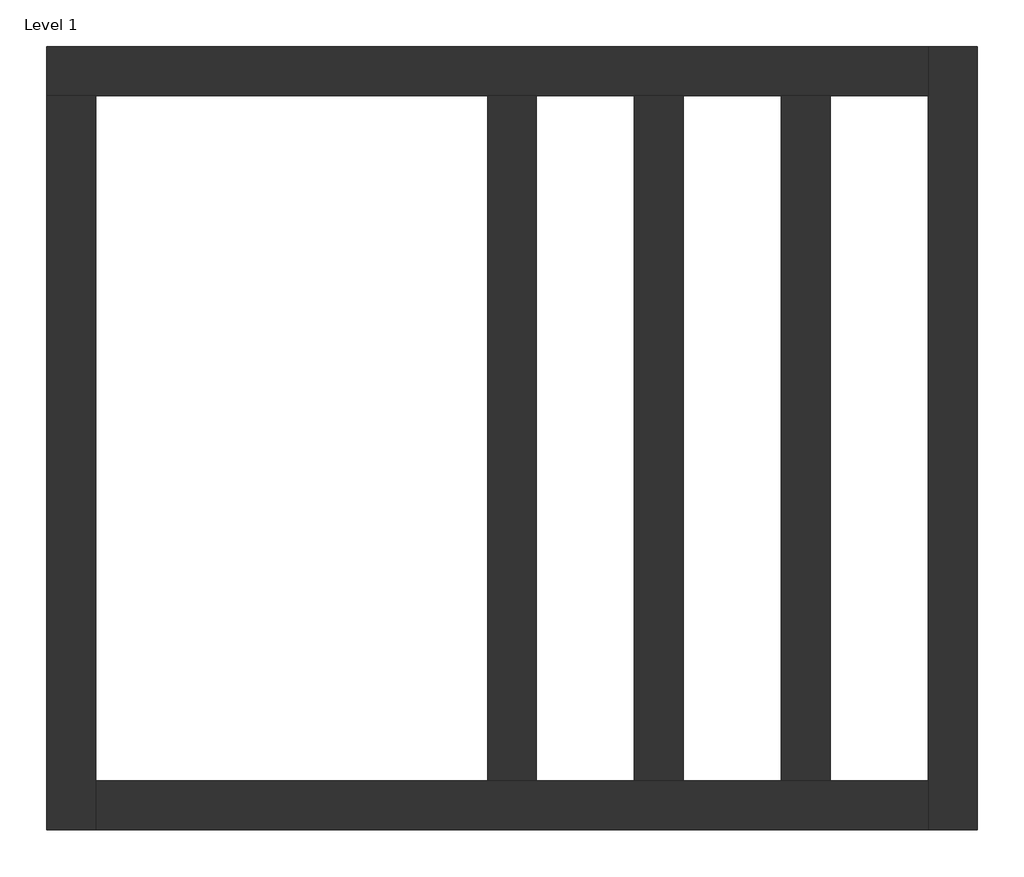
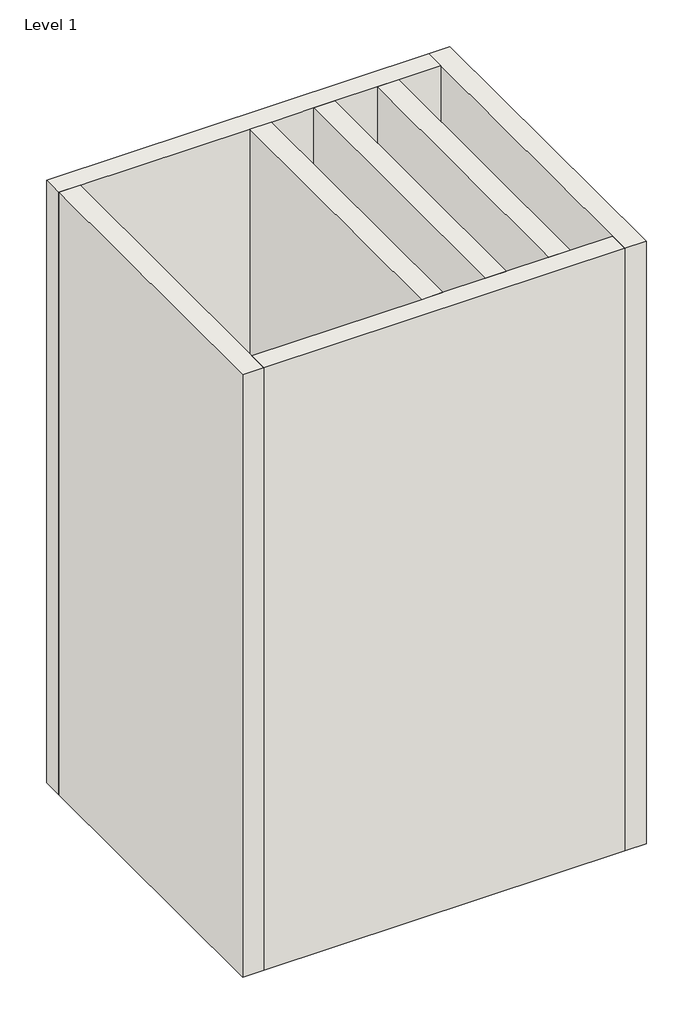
# One storey: 7 walls.
"""IFC4 building model written with IfcOpenShell, lengths in millimetres."""

import ifcopenshell
import ifcopenshell.guid

model = None  # the IFC model being written
_history = None  # IfcOwnerHistory: only IFC2X3 demands one
_inside = {}  # id of a spatial element -> (the spatial element, [elements in it])
_under = {}  # id of a project, library or spatial element -> (it, [spatial elements below it])
_declared = {}  # id of a project -> (the project, [libraries it declares])
_typed = {}  # id of a type object -> (the type object, [elements of that type])
_made_of = {}  # id of a material, layer set ... -> (it, [elements and type objects made of it])


def new_model(schema):
    """Start an empty IFC model of exactly this schema.

    Asked for "IFC4X3", IfcOpenShell would pick the latest addendum, in which some entities
    have other attributes; the version numbers below select the first issue.
    IFC2X3 requires an IfcOwnerHistory on every rooted entity: one is made here for all.
    """
    global model, _history
    if schema == "IFC4X3":
        model = ifcopenshell.file(schema_version=(4, 3, 0, 0))
    else:
        model = ifcopenshell.file(schema=schema)
    _inside.clear()
    _under.clear()
    _declared.clear()
    _typed.clear()
    _made_of.clear()
    _history = None
    if model.schema == "IFC2X3":
        org = make("IfcOrganization", Name="unknown")
        user = make(
            "IfcPersonAndOrganization",
            ThePerson=make("IfcPerson", FamilyName="unknown"),
            TheOrganization=org,
        )
        app = make(
            "IfcApplication",
            ApplicationDeveloper=org,
            Version="unknown",
            ApplicationFullName="unknown",
            ApplicationIdentifier="unknown",
        )
        _history = make(
            "IfcOwnerHistory",
            OwningUser=user,
            OwningApplication=app,
            ChangeAction="ADDED",
            CreationDate=0,
        )
    return model


def make(cls, **values):
    """One entity of the class cls with the attributes given. An attribute that is None is left unset."""
    return model.create_entity(
        cls, **{name: value for name, value in values.items() if value is not None}
    )


def rooted(cls, **values):
    """An entity with a GlobalId (a new one), such as an element, a storey or a relation."""
    return make(cls, GlobalId=ifcopenshell.guid.new(), OwnerHistory=_history, **values)


def si_unit(unit_type, name, prefix=None):
    """IfcSIUnit, for example si_unit("LENGTHUNIT", "METRE", prefix="MILLI")."""
    return make("IfcSIUnit", UnitType=unit_type, Prefix=prefix, Name=name)


def assignment(units):
    """IfcUnitAssignment: the units of a project."""
    return None if units is None else make("IfcUnitAssignment", Units=units)


def point(xyz):
    """IfcCartesianPoint."""
    return None if xyz is None else make("IfcCartesianPoint", Coordinates=xyz)


def direction(xyz):
    """IfcDirection."""
    return None if xyz is None else make("IfcDirection", DirectionRatios=xyz)


def frame(location, z_axis=None, x_axis=None):
    """IfcAxis2Placement3D, a coordinate frame: its origin and axes. An axis left out is left unset."""
    return make(
        "IfcAxis2Placement3D",
        Location=point(location),
        Axis=direction(z_axis),
        RefDirection=direction(x_axis),
    )


def origin():
    """The frame at (0, 0, 0) with its axes left unset."""
    return frame((0.0, 0.0, 0.0))


def origin_with_axes():
    """The frame at (0, 0, 0) with the z axis (0, 0, 1) and the x axis (1, 0, 0) written out."""
    return frame((0.0, 0.0, 0.0), z_axis=(0.0, 0.0, 1.0), x_axis=(1.0, 0.0, 0.0))


def place(relative_to, where):
    """IfcLocalPlacement: puts the frame where relative to a parent placement (None: the world)."""
    return make(
        "IfcLocalPlacement", PlacementRelTo=relative_to, RelativePlacement=where
    )


def context(
    kind, dimensions, precision=None, world=None, true_north=None, identifier=None
):
    """IfcGeometricRepresentationContext, for example the 3D "Model" context."""
    return make(
        "IfcGeometricRepresentationContext",
        ContextIdentifier=identifier,
        ContextType=kind,
        CoordinateSpaceDimension=dimensions,
        Precision=precision,
        WorldCoordinateSystem=world,
        TrueNorth=true_north,
    )


def project(units=None, contexts=None):
    """IfcProject with its units and contexts."""
    return rooted(
        "IfcProject",
        Name="project",
        RepresentationContexts=contexts,
        UnitsInContext=assignment(units),
    )


def spatial(cls, under=None, at=None, **own):
    """A site, building, storey or space (cls), placed at a placement, below another one or the project."""
    s = rooted(cls, ObjectPlacement=at, **own)
    if under is not None:
        _under.setdefault(under.id(), (under, []))[1].append(s)
    return s


def polyline(points):
    """IfcPolyline through the points."""
    return make("IfcPolyline", Points=[point(p) for p in points])


def outline(outer, holes=None, kind="AREA"):
    """IfcArbitraryClosedProfileDef: a profile drawn as a closed curve; with holes, ...WithVoids."""
    if holes is None:
        return make("IfcArbitraryClosedProfileDef", ProfileType=kind, OuterCurve=outer)
    return make(
        "IfcArbitraryProfileDefWithVoids",
        ProfileType=kind,
        OuterCurve=outer,
        InnerCurves=holes,
    )


def extrude(swept, where, along, depth):
    """IfcExtrudedAreaSolid: the profile swept, set in the frame where, extruded along a direction by depth."""
    return make(
        "IfcExtrudedAreaSolid",
        SweptArea=swept,
        Position=where,
        ExtrudedDirection=direction(along),
        Depth=depth,
    )


def faces_of(points, faces, orient=None, outer=None):
    """IfcFace entities. A face is a list of loops; a loop is a list of indices into points, from 0.

    orient and outer hold one flag for each loop. By default every Orientation is true, the
    first loop of a face is its IfcFaceOuterBound and the others are IfcFaceBound.
    """
    made = []
    for i, loops in enumerate(faces):
        bounds = []
        for j, loop in enumerate(loops):
            is_outer = j == 0 if outer is None else outer[i][j]
            bounds.append(
                make(
                    "IfcFaceOuterBound" if is_outer else "IfcFaceBound",
                    Bound=make("IfcPolyLoop", Polygon=[points[k] for k in loop]),
                    Orientation=True if orient is None else orient[i][j],
                )
            )
        made.append(make("IfcFace", Bounds=bounds))
    return made


def faceted_brep(points, faces, orient=None, outer=None, voids=None):
    """IfcFacetedBrep: a solid bounded by flat faces; with voids (closed shells), ...WithVoids."""
    shared = [point(p) for p in points]
    hull = make("IfcClosedShell", CfsFaces=faces_of(shared, faces, orient, outer))
    if voids is None:
        return make("IfcFacetedBrep", Outer=hull)
    return make(
        "IfcFacetedBrepWithVoids",
        Outer=hull,
        Voids=[
            make(cls, CfsFaces=faces_of(shared, fs, o, b)) for cls, fs, o, b in voids
        ],
    )


def shape(context_of_items, identifier, shape_type, items):
    """IfcShapeRepresentation: the items that make up one representation, for example the "Body"."""
    return make(
        "IfcShapeRepresentation",
        ContextOfItems=context_of_items,
        RepresentationIdentifier=identifier,
        RepresentationType=shape_type,
        Items=items,
    )


def made_of(thing, what):
    """Note that an element or type object is made of a material, layer set ...; save() writes the relation."""
    if what is not None:
        _made_of.setdefault(what.id(), (what, []))[1].append(thing)
    return thing


def element(
    cls,
    number,
    at=None,
    inside=None,
    cuts=None,
    type_object=None,
    material=None,
    context=None,
    identifier="Body",
    shape_type=None,
    held_by="IfcProductDefinitionShape",
    body=None,
    shapes=None,
    **own,
):
    """One element of the class cls, such as IfcWall. Its Tag is "e" and its number.

    at: its placement. inside: the storey or other place that contains it. cuts: it is an
    opening in that element (IfcRelVoidsElement). A single representation is given by context,
    identifier, shape_type and body (its items); several are given by shapes. held_by: the class
    of the entity that holds the representations. save() writes the other relations.
    """
    e = rooted(cls, Tag="e%d" % number, ObjectPlacement=at, **own)
    if body is not None:
        shapes = [shape(context, identifier, shape_type, body)]
    if shapes is not None:
        e.Representation = make(held_by, Representations=shapes)
    if inside is not None:
        _inside.setdefault(inside.id(), (inside, []))[1].append(e)
    if cuts is not None:
        rooted(
            "IfcRelVoidsElement", RelatingBuildingElement=cuts, RelatedOpeningElement=e
        )
    if type_object is not None:
        _typed.setdefault(type_object.id(), (type_object, []))[1].append(e)
    return made_of(e, material)


def aggregate(whole, parts):
    """IfcRelAggregates: a whole, such as a stair, and the parts it consists of."""
    return rooted("IfcRelAggregates", RelatingObject=whole, RelatedObjects=parts)


def save(model, path):
    """Write the relations noted so far, then the file.

    IfcRelAggregates (storeys below a building ...), IfcRelContainedInSpatialStructure (elements
    in a storey), IfcRelDefinesByType, IfcRelAssociatesMaterial and IfcRelDeclares: one each for
    every whole, place, type object, material and project.
    """
    for whole, parts in _under.values():
        aggregate(whole, parts)
    for where, things in _inside.values():
        rooted(
            "IfcRelContainedInSpatialStructure",
            RelatedElements=things,
            RelatingStructure=where,
        )
    for kind, things in _typed.values():
        rooted("IfcRelDefinesByType", RelatedObjects=things, RelatingType=kind)
    for what, things in _made_of.values():
        rooted("IfcRelAssociatesMaterial", RelatedObjects=things, RelatingMaterial=what)
    for by, libraries in _declared.values():
        rooted("IfcRelDeclares", RelatingContext=by, RelatedDefinitions=libraries)
    model.write(path)


model = new_model("IFC4")

# Units and contexts
model_context = context("Model", 3, world=origin())
ifc_project = project(units=[si_unit("LENGTHUNIT", "METRE", prefix="MILLI")], contexts=[model_context])

# Site, building, storey
site = spatial("IfcSite", under=ifc_project)
building = spatial("IfcBuilding", under=site)
storey = spatial("IfcBuildingStorey", under=building, Name="Level 1", Elevation=0.0)

# Walls
placement = place(None, origin())
element("IfcWall", 1, ObjectType="Generic - 8\"", at=placement, inside=storey, context=model_context, shape_type="Brep", body=[
    faceted_brep([(-1561.1450105, -510.7476624, 0.0), (-1357.9450105, -510.7476624, 0.0), (267.6549895, -510.7476624, 0.0), (470.8549895, -510.7476624, 0.0), (877.2549895, -510.7476624, 0.0), (1080.4549895, -510.7476624, 0.0), (1486.8549895, -510.7476624, 0.0), (1690.0549895, -510.7476624, 0.0), (2096.4549895, -510.7476624, 0.0), (2096.4549895, -510.7476624, 6096.0), (1690.0549895, -510.7476624, 6096.0), (1486.8549895, -510.7476624, 6096.0), (1080.4549895, -510.7476624, 6096.0), (877.2549895, -510.7476624, 6096.0), (470.8549895, -510.7476624, 6096.0), (267.6549895, -510.7476624, 6096.0), (-1357.9450105, -510.7476624, 6096.0), (-1561.1450105, -510.7476624, 6096.0), (-1561.1450105, -307.5476624, 0.0), (-1561.1450105, -307.5476624, 6096.0), (2096.4549895, -307.5476624, 6096.0), (2096.4549895, -307.5476624, 0.0)], [[[0, 1, 2, 3, 4, 5, 6, 7, 8, 9, 10, 11, 12, 13, 14, 15, 16, 17]], [[18, 19, 20, 21]], [[8, 7, 6, 5, 4, 3, 2, 1, 0, 18, 21]], [[17, 16, 15, 14, 13, 12, 11, 10, 9, 20, 19]], [[0, 17, 19, 18]], [[9, 8, 21, 20]]]),
])
element("IfcWall", 2, ObjectType="Generic - 8\"", at=placement, inside=storey, context=model_context, shape_type="Brep", body=[
    faceted_brep([(-1357.9450105, -3558.7476624, 0.0), (-1357.9450105, -3355.5476624, 0.0), (-1357.9450105, -510.7476624, 0.0), (-1357.9450105, -510.7476624, 6096.0), (-1357.9450105, -3355.5476624, 6096.0), (-1357.9450105, -3558.7476624, 6096.0), (-1561.1450105, -3558.7476624, 0.0), (-1561.1450105, -3558.7476624, 6096.0), (-1561.1450105, -510.7476624, 6096.0), (-1561.1450105, -510.7476624, 0.0)], [[[0, 1, 2, 3, 4, 5]], [[6, 7, 8, 9]], [[2, 1, 0, 6, 9]], [[5, 4, 3, 8, 7]], [[0, 5, 7, 6]], [[3, 2, 9, 8]]]),
])
element("IfcWall", 3, ObjectType="Generic - 8\"", at=placement, inside=storey, context=model_context, shape_type="Brep", body=[
    faceted_brep([(2096.4549895, -3355.5476624, 0.0), (1690.0549895, -3355.5476624, 0.0), (1486.8549895, -3355.5476624, 0.0), (1080.4549895, -3355.5476624, 0.0), (877.2549895, -3355.5476624, 0.0), (470.8549895, -3355.5476624, 0.0), (267.6549895, -3355.5476624, 0.0), (-1357.9450105, -3355.5476624, 0.0), (-1357.9450105, -3355.5476624, 6096.0), (267.6549895, -3355.5476624, 6096.0), (470.8549895, -3355.5476624, 6096.0), (877.2549895, -3355.5476624, 6096.0), (1080.4549895, -3355.5476624, 6096.0), (1486.8549895, -3355.5476624, 6096.0), (1690.0549895, -3355.5476624, 6096.0), (2096.4549895, -3355.5476624, 6096.0), (2096.4549895, -3558.7476624, 0.0), (2096.4549895, -3558.7476624, 6096.0), (-1357.9450105, -3558.7476624, 6096.0), (-1357.9450105, -3558.7476624, 0.0)], [[[0, 1, 2, 3, 4, 5, 6, 7, 8, 9, 10, 11, 12, 13, 14, 15]], [[16, 17, 18, 19]], [[7, 6, 5, 4, 3, 2, 1, 0, 16, 19]], [[15, 14, 13, 12, 11, 10, 9, 8, 18, 17]], [[8, 7, 19, 18]], [[0, 15, 17, 16]]]),
])
element("IfcWall", 4, ObjectType="Generic - 8\"", at=placement, inside=storey, context=model_context, shape_type="Brep", body=[
    faceted_brep([(2096.4549895, -307.5476624, 0.0), (2096.4549895, -510.7476624, 0.0), (2096.4549895, -3355.5476624, 0.0), (2096.4549895, -3558.7476624, 0.0), (2096.4549895, -3558.7476624, 6096.0), (2096.4549895, -3355.5476624, 6096.0), (2096.4549895, -510.7476624, 6096.0), (2096.4549895, -307.5476624, 6096.0), (2299.6549895, -307.5476624, 0.0), (2299.6549895, -307.5476624, 6096.0), (2299.6549895, -3558.7476624, 6096.0), (2299.6549895, -3558.7476624, 0.0)], [[[0, 1, 2, 3, 4, 5, 6, 7]], [[8, 9, 10, 11]], [[3, 2, 1, 0, 8, 11]], [[7, 6, 5, 4, 10, 9]], [[0, 7, 9, 8]], [[4, 3, 11, 10]]]),
])
element("IfcWall", 5, ObjectType="Generic - 8\"", at=placement, inside=storey, context=model_context, shape_type="SweptSolid", body=[
    extrude(outline(polyline([(1486.8549895, -3355.5476624), (1486.8549895, -510.7476624), (1690.0549895, -510.7476624), (1690.0549895, -3355.5476624), (1486.8549895, -3355.5476624)])), origin_with_axes(), (0.0, 0.0, 1.0), 6096.0),
])
element("IfcWall", 6, ObjectType="Generic - 8\"", at=placement, inside=storey, context=model_context, shape_type="SweptSolid", body=[
    extrude(outline(polyline([(877.2549895, -3355.5476624), (877.2549895, -510.7476624), (1080.4549895, -510.7476624), (1080.4549895, -3355.5476624), (877.2549895, -3355.5476624)])), origin_with_axes(), (0.0, 0.0, 1.0), 6096.0),
])
element("IfcWall", 7, ObjectType="Generic - 8\"", at=placement, inside=storey, context=model_context, shape_type="SweptSolid", body=[
    extrude(outline(polyline([(267.6549895, -3355.5476624), (267.6549895, -510.7476624), (470.8549895, -510.7476624), (470.8549895, -3355.5476624), (267.6549895, -3355.5476624)])), origin_with_axes(), (0.0, 0.0, 1.0), 6096.0),
])

save(model, "model.ifc")
